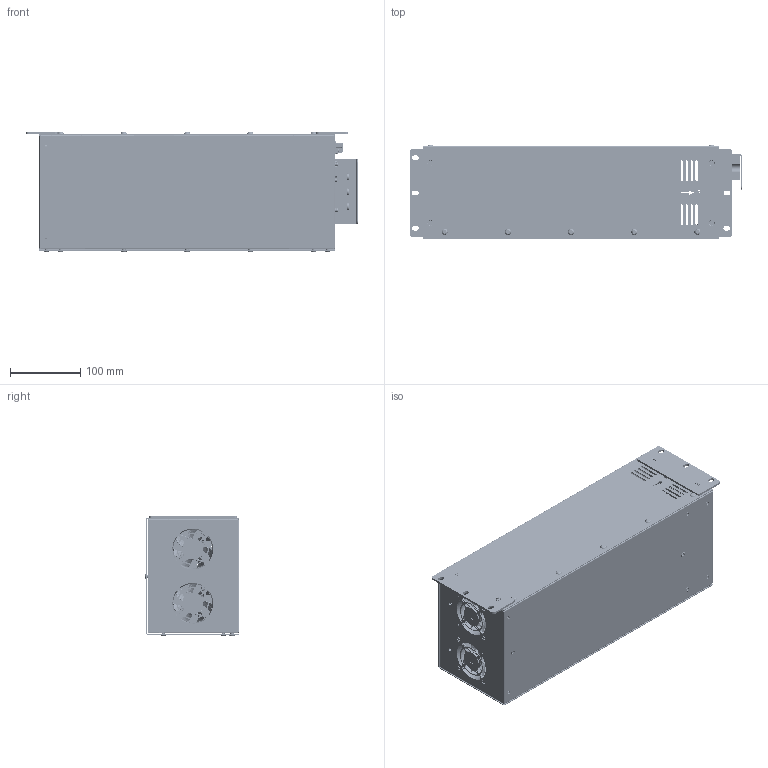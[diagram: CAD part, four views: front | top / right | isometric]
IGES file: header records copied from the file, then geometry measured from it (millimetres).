
Global section: file name: VX2COM_OLED_VER_2026.06.09_단순화_1; native system: Autodesk Inventor 2026; preprocessor: unknown; author: Administrator; date: 20260610.094200; units: millimetre
Bounding box: 471 x 134.64 x 171.54 mm (x, y, z)
Volume: 595755.7 mm3; surface area: 729642.6 mm2
Topology: 14 solids, 14 shells, 6979 faces, 19130 edges, 12659 vertices
Faces by surface type: bspline 6979
